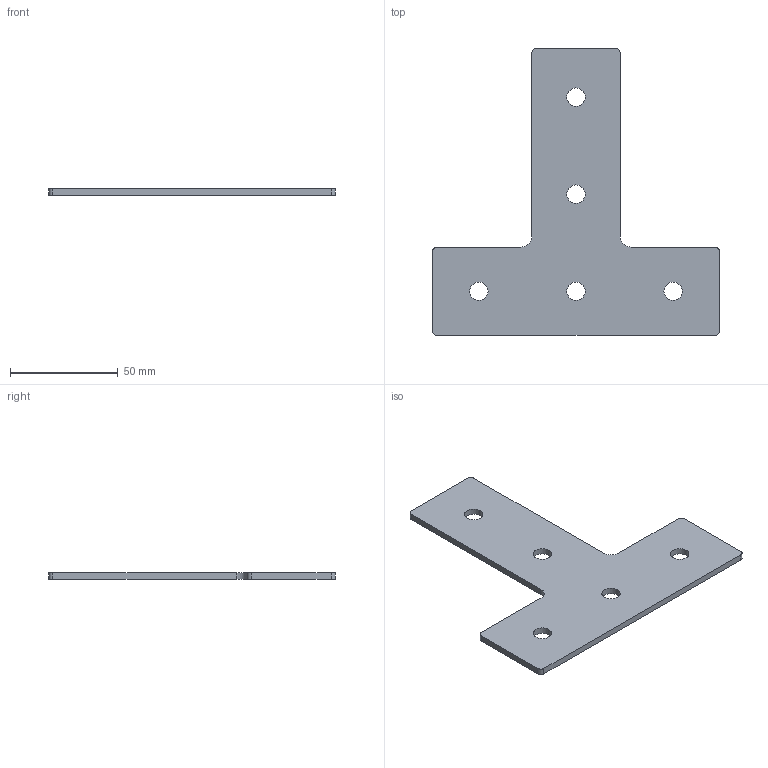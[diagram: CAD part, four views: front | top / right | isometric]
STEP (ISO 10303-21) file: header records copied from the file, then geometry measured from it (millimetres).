
FILE_DESCRIPTION(/* description */ ('Unknown'),/* implementation_level */ '2;1');
FILE_NAME(/* name */ 'CJP4545T',/* time_stamp */ '2018-12-06T16:16:27+00:00',/* author */ ('Unknown'),/* organization */ ('Unknown'),/* preprocessor_version */ 'ST-DEVELOPER v16.7',/* originating_system */ 'DEX',/* authorisation */ $);
FILE_SCHEMA (('AUTOMOTIVE_DESIGN {1 0 10303 214 3 1 1}'));
Length unit declared in the file: millimetre
Products named in the file (1): CJP4545T
Bounding box: 133 x 133 x 3 mm (x, y, z)
Volume: 26840.6 mm3; surface area: 19861.9 mm2
Topology: 1 solids, 1 shells, 23 faces, 63 edges, 42 vertices
Faces by surface type: cylinder 13, plane 10
Full cylindrical faces by diameter (mm): 8.5 x5
Entity records: 768 total; most frequent: DIRECTION 132, CARTESIAN_POINT 124, ORIENTED_EDGE 116, EDGE_CURVE 58, AXIS2_PLACEMENT_3D 50, VERTEX_POINT 42, EDGE_LOOP 38, FACE_BOUND 38
